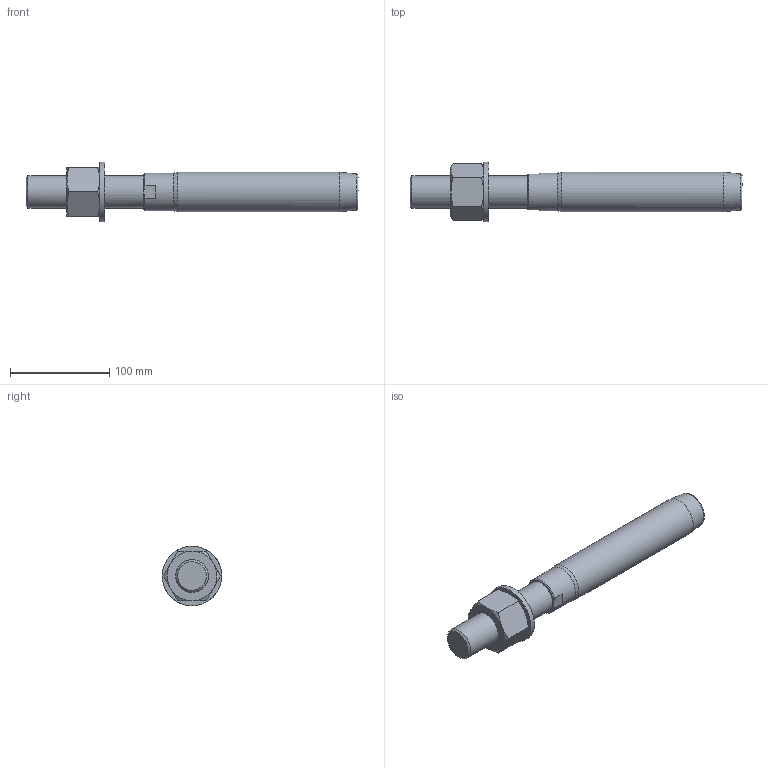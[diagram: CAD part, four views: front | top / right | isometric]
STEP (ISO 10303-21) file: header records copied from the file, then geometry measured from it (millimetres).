
FILE_DESCRIPTION(/* description */ (''),/* implementation_level */ '2;1');
FILE_NAME(/* name */ 'FLT 20_1,4462',/* time_stamp */ '2023-05-23T15:58:05+02:00',/* author */ (''),/* organization */ (''),/* preprocessor_version */ 'ST-DEVELOPER v16.5',/* originating_system */ 'Rhino 7.22',/* authorisation */ '');
FILE_SCHEMA (('CONFIG_CONTROL_DESIGN'));
Length unit declared in the file: millimetre
Products named in the file (1): Document
Bounding box: 335 x 60 x 59.99 mm (x, y, z)
Volume: 424993.3 mm3; surface area: 57799.9 mm2
Topology: 3 solids, 3 shells, 43 faces, 104 edges, 68 vertices
Faces by surface type: bspline 20, plane 17, cylinder 6
Full cylindrical faces by diameter (mm): 29.211 x1, 33 x1, 34 x1, 38.1 x1, 40 x1, 60 x1
Entity records: 1590 total; most frequent: CARTESIAN_POINT 881, ORIENTED_EDGE 208, EDGE_CURVE 104, VERTEX_POINT 68, EDGE_LOOP 48, ADVANCED_FACE 43, FACE_OUTER_BOUND 43, DIRECTION 27
